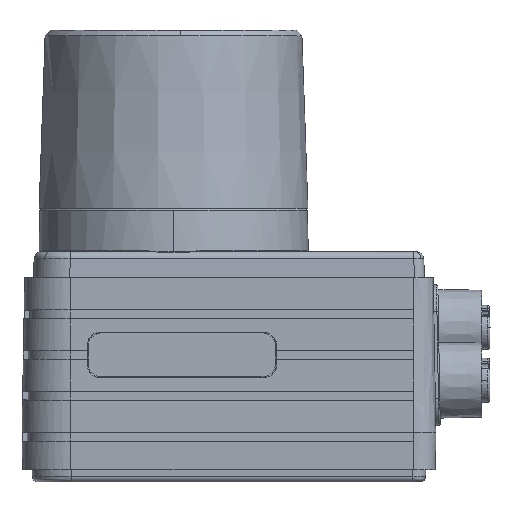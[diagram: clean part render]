
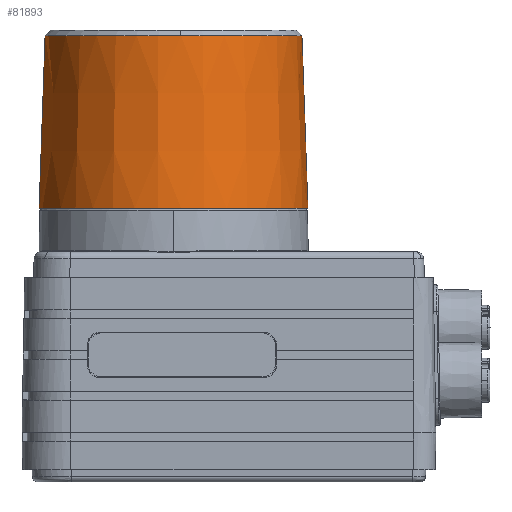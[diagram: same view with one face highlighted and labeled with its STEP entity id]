
A CAD part, left-side view. The second image highlights one B-rep face of the part: STEP entity #81893.
In plain terms, the highlighted conical face has half-angle 2 degrees and reference radius 24.4 mm.
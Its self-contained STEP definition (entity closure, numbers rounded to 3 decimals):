
#3216 = CONICAL_SURFACE ( 'NONE', #3218, 24.4, 0.035 ) ;
#3218 = AXIS2_PLACEMENT_3D ( 'NONE', #264867, #264879, #264947 ) ;
#27361 = EDGE_CURVE ( 'NONE', #269640, #269644, #95442, .T. ) ;
#27362 = EDGE_CURVE ( 'NONE', #269679, #269662, #95438, .T. ) ;
#27363 = EDGE_CURVE ( 'NONE', #269662, #269640, #124436, .T. ) ;
#27367 = EDGE_CURVE ( 'NONE', #269674, #269644, #124442, .T. ) ;
#27394 = EDGE_CURVE ( 'NONE', #269679, #269674, #124493, .T. ) ;
#81893 = ADVANCED_FACE ( 'NONE', ( #264872 ), #3216, .T. ) ;
#95419 = CARTESIAN_POINT ( 'NONE',  ( 24.4, 0., 17. ) ) ;
#95438 = LINE ( 'NONE', #95461, #124429 ) ;
#95442 = LINE ( 'NONE', #95419, #124415 ) ;
#95458 = DIRECTION ( 'NONE',  ( -0.035, 0., 0.999 ) ) ;
#95461 = CARTESIAN_POINT ( 'NONE',  ( -24.4, 0., 17. ) ) ;
#95470 = DIRECTION ( 'NONE',  ( -0.035, 0., -0.999 ) ) ;
#95485 = CARTESIAN_POINT ( 'NONE',  ( 0., 0., 17. ) ) ;
#95489 = DIRECTION ( 'NONE',  ( 0., 0., -1. ) ) ;
#95493 = DIRECTION ( 'NONE',  ( -1., 0., 0. ) ) ;
#95522 = CARTESIAN_POINT ( 'NONE',  ( 0., 0., 48.301 ) ) ;
#95526 = DIRECTION ( 'NONE',  ( 0., 0., -1. ) ) ;
#95530 = DIRECTION ( 'NONE',  ( -1., 0., 0. ) ) ;
#95767 = CARTESIAN_POINT ( 'NONE',  ( 0., 0., 48.301 ) ) ;
#95771 = DIRECTION ( 'NONE',  ( 0., 0., -1. ) ) ;
#95774 = DIRECTION ( 'NONE',  ( -1., 0., 0. ) ) ;
#124415 = VECTOR ( 'NONE', #95458, 1000. ) ;
#124429 = VECTOR ( 'NONE', #95470, 1000. ) ;
#124436 = CIRCLE ( 'NONE', #124440, 24.4 ) ;
#124440 = AXIS2_PLACEMENT_3D ( 'NONE', #95485, #95489, #95493 ) ;
#124442 = CIRCLE ( 'NONE', #124449, 23.307 ) ;
#124449 = AXIS2_PLACEMENT_3D ( 'NONE', #95522, #95526, #95530 ) ;
#124493 = CIRCLE ( 'NONE', #124498, 23.307 ) ;
#124498 = AXIS2_PLACEMENT_3D ( 'NONE', #95767, #95771, #95774 ) ;
#124617 = ORIENTED_EDGE ( 'NONE', *, *, #27361, .F. ) ;
#124619 = ORIENTED_EDGE ( 'NONE', *, *, #27367, .T. ) ;
#124620 = ORIENTED_EDGE ( 'NONE', *, *, #27394, .T. ) ;
#124622 = ORIENTED_EDGE ( 'NONE', *, *, #27362, .F. ) ;
#124624 = ORIENTED_EDGE ( 'NONE', *, *, #27363, .F. ) ;
#165971 = CARTESIAN_POINT ( 'NONE',  ( 23.307, 0., 48.301 ) ) ;
#165982 = CARTESIAN_POINT ( 'NONE',  ( 24.4, 0., 17. ) ) ;
#165988 = CARTESIAN_POINT ( 'NONE',  ( -24.4, 0., 17. ) ) ;
#165989 = CARTESIAN_POINT ( 'NONE',  ( -23.307, 0., 48.301 ) ) ;
#165992 = CARTESIAN_POINT ( 'NONE',  ( 0., 23.307, 48.301 ) ) ;
#249449 = EDGE_LOOP ( 'NONE', ( #124624, #124622, #124620, #124619, #124617 ) ) ;
#264867 = CARTESIAN_POINT ( 'NONE',  ( 0., 0., 17. ) ) ;
#264872 = FACE_OUTER_BOUND ( 'NONE', #249449, .T. ) ;
#264879 = DIRECTION ( 'NONE',  ( 0., 0., -1. ) ) ;
#264947 = DIRECTION ( 'NONE',  ( -1., 0., 0. ) ) ;
#269640 = VERTEX_POINT ( 'NONE', #165982 ) ;
#269644 = VERTEX_POINT ( 'NONE', #165971 ) ;
#269662 = VERTEX_POINT ( 'NONE', #165988 ) ;
#269674 = VERTEX_POINT ( 'NONE', #165992 ) ;
#269679 = VERTEX_POINT ( 'NONE', #165989 ) ;
